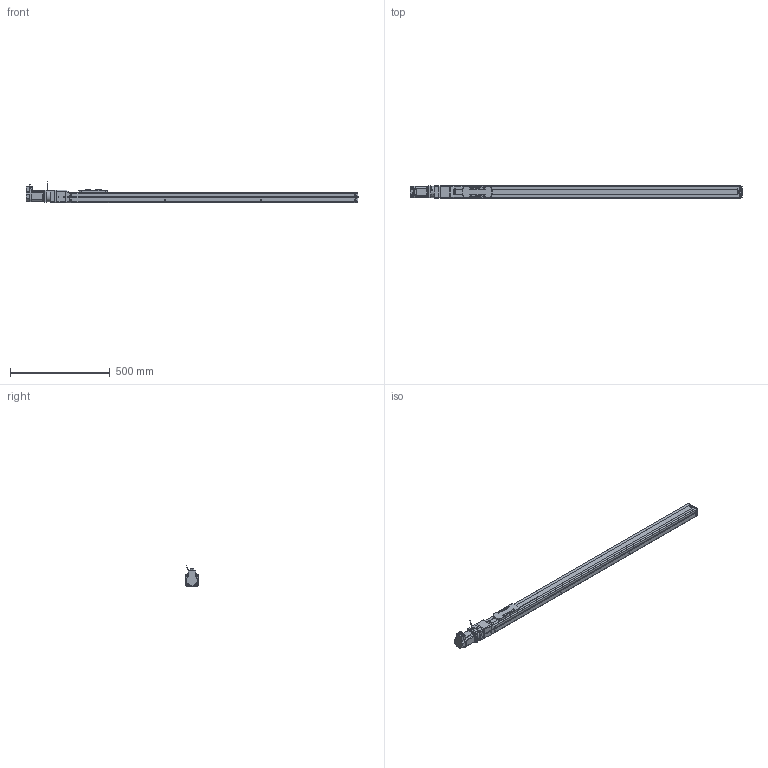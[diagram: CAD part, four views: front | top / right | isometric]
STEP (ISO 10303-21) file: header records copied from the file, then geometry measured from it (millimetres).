
FILE_DESCRIPTION(('FreeCAD Model'),'2;1');
FILE_NAME('Open CASCADE Shape Model','2023-08-03T17:21:21',('Author'),( ''),'Open CASCADE STEP processor 7.5','FreeCAD','Unknown');
FILE_SCHEMA(('AUTOMOTIVE_DESIGN { 1 0 10303 214 1 1 1 1 }'));
Length unit declared in the file: millimetre
Products named in the file (21): RMJ1211_BRK; Shapes; Shapes001; Shapes002; Shapes003; Shapes004; Shapes005; Shapes006; Shapes007; Shapes008; Shapes009; Shapes010; Shapes011; Shapes012; Body; BXW-03-10H-8_STEP; Body001; KSF6-20-1200-0-A0(0); KSF6---(Cover); KSF6-10-0050---(slider); KSF6-20-01200-A0 (01200A0No0)---(body)
Assembly tree (20 placements, depth 3):
  RMJ1211_BRK
    Shapes
    Shapes001
    Shapes002
    Shapes003
    Shapes004
    Shapes005
    Shapes006
    Shapes007
    Shapes008
    Shapes009
    Shapes010
    Shapes011
    Shapes012
    Body
    BXW-03-10H-8_STEP
    Body001
    KSF6-20-1200-0-A0(0)
      KSF6---(Cover)
      KSF6-10-0050---(slider)
      KSF6-20-01200-A0 (01200A0No0)---(body)
Bounding box: 1660.47 x 66.4 x 107.78 mm (x, y, z)
Volume: 5144602.9 mm3; surface area: 545255.9 mm2
Topology: 19 solids, 19 shells, 1914 faces, 5073 edges, 3328 vertices
Faces by surface type: plane 1263, cylinder 501, cone 91, bspline 28, torus 27, revolution 4
Full cylindrical faces by diameter (mm): 2.113 x8, 2.6 x4, 3 x5, 3.242 x5, 4.134 x4, 4.2 x7, 4.3 x1, 4.5 x2, 5 x1, 5.5 x20, 6.5 x4, 7.5 x4, 9 x1, 9.5 x14, 12 x1, 15.5 x1, 17 x1, 38.1 x1, 38.2 x1, 44 x1, 50 x2, 56.2 x1
Entity records: 136205 total; most frequent: CARTESIAN_POINT 31632, DIRECTION 19288, LINE 12475, VECTOR 12475, ORIENTED_EDGE 10098, PCURVE 10098, DEFINITIONAL_REPRESENTATION 10098, EDGE_CURVE 5049
